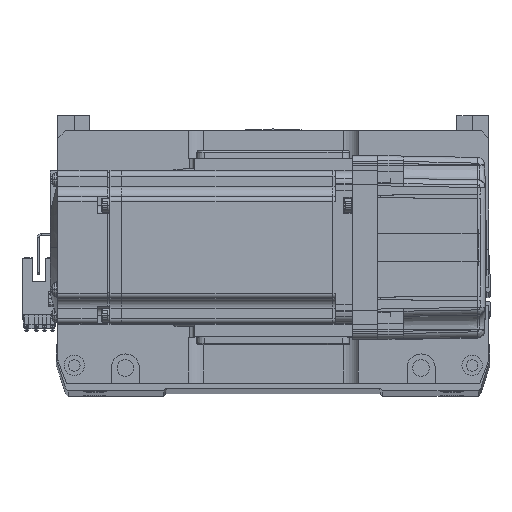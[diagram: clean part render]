
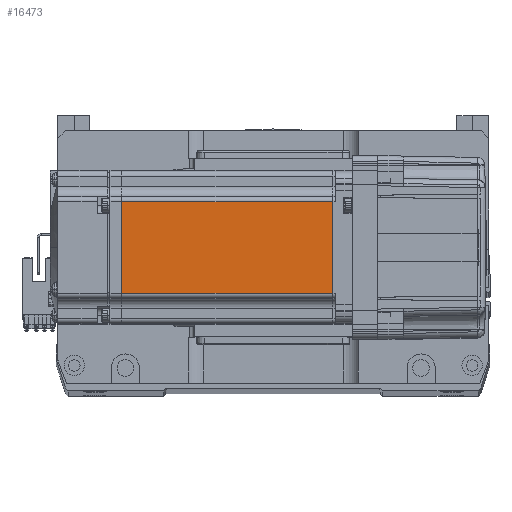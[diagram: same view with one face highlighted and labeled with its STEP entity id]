
A CAD part, top view. The second image highlights one B-rep face of the part: STEP entity #16473.
In plain terms, the highlighted planar face has unit normal (0, 0, 1).
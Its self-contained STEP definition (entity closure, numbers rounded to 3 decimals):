
#1030 = EDGE_LOOP ( 'NONE', ( #17025, #7281, #31021, #20094 ) ) ;
#2635 = CARTESIAN_POINT ( 'NONE',  ( -7.75, 0., 30. ) ) ;
#3456 = LINE ( 'NONE', #42549, #14309 ) ;
#5456 = AXIS2_PLACEMENT_3D ( 'NONE', #63631, #14332, #23603 ) ;
#5685 = FACE_OUTER_BOUND ( 'NONE', #1030, .T. ) ;
#7152 = CARTESIAN_POINT ( 'NONE',  ( -6.5, 18., 30. ) ) ;
#7281 = ORIENTED_EDGE ( 'NONE', *, *, #49535, .T. ) ;
#8827 = VECTOR ( 'NONE', #53907, 1000. ) ;
#9086 = VECTOR ( 'NONE', #41912, 1000. ) ;
#10493 = VERTEX_POINT ( 'NONE', #35355 ) ;
#13893 = CARTESIAN_POINT ( 'NONE',  ( -7.75, -18., 30. ) ) ;
#14309 = VECTOR ( 'NONE', #61864, 1000. ) ;
#14332 = DIRECTION ( 'NONE',  ( 0., 0., 1. ) ) ;
#16473 = ADVANCED_FACE ( 'NONE', ( #5685 ), #18840, .T. ) ;
#16523 = VERTEX_POINT ( 'NONE', #13893 ) ;
#16691 = DIRECTION ( 'NONE',  ( -1., 0., 0. ) ) ;
#17025 = ORIENTED_EDGE ( 'NONE', *, *, #23158, .F. ) ;
#18840 = PLANE ( 'NONE',  #5456 ) ;
#18967 = CARTESIAN_POINT ( 'NONE',  ( -90.45, 18., 30. ) ) ;
#20094 = ORIENTED_EDGE ( 'NONE', *, *, #30904, .F. ) ;
#23158 = EDGE_CURVE ( 'NONE', #10493, #16523, #31464, .T. ) ;
#23603 = DIRECTION ( 'NONE',  ( 1., 0., 0. ) ) ;
#24268 = LINE ( 'NONE', #30830, #8827 ) ;
#24387 = EDGE_CURVE ( 'NONE', #49872, #50142, #3456, .T. ) ;
#30830 = CARTESIAN_POINT ( 'NONE',  ( -6.5, -18., 30. ) ) ;
#30904 = EDGE_CURVE ( 'NONE', #16523, #50142, #24268, .T. ) ;
#31021 = ORIENTED_EDGE ( 'NONE', *, *, #24387, .T. ) ;
#31464 = LINE ( 'NONE', #2635, #9086 ) ;
#35355 = CARTESIAN_POINT ( 'NONE',  ( -7.75, 18., 30. ) ) ;
#38751 = VECTOR ( 'NONE', #16691, 1000. ) ;
#41912 = DIRECTION ( 'NONE',  ( 0., -1., 0. ) ) ;
#42549 = CARTESIAN_POINT ( 'NONE',  ( -90.45, 0., 30. ) ) ;
#42653 = CARTESIAN_POINT ( 'NONE',  ( -90.45, -18., 30. ) ) ;
#49535 = EDGE_CURVE ( 'NONE', #10493, #49872, #51830, .T. ) ;
#49872 = VERTEX_POINT ( 'NONE', #18967 ) ;
#50142 = VERTEX_POINT ( 'NONE', #42653 ) ;
#51830 = LINE ( 'NONE', #7152, #38751 ) ;
#53907 = DIRECTION ( 'NONE',  ( -1., 0., 0. ) ) ;
#61864 = DIRECTION ( 'NONE',  ( 0., -1., 0. ) ) ;
#63631 = CARTESIAN_POINT ( 'NONE',  ( -6.5, -25., 30. ) ) ;
